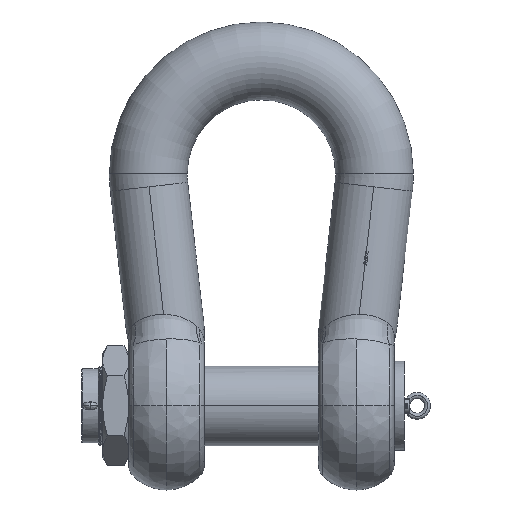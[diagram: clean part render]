
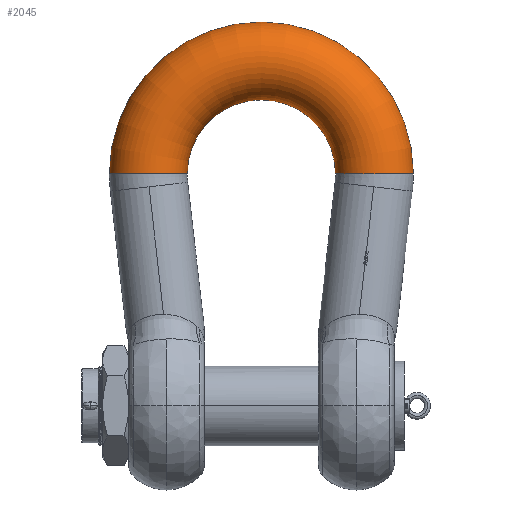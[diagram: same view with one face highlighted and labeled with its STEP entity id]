
A CAD part, front view. The second image highlights one B-rep face of the part: STEP entity #2045.
In plain terms, the highlighted toroidal (fillet/blend) face has major radius 305 mm and minor radius 104.995 mm.
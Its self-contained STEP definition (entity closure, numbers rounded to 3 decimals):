
#2045=ADVANCED_FACE('',(#4930),#4931,.T.);
#4930=FACE_OUTER_BOUND('',#10768,.T.);
#4931=TOROIDAL_SURFACE('',#10769,305.0,104.995);
#10768=EDGE_LOOP('',(#35251,#35252,#35253,#35254));
#10769=AXIS2_PLACEMENT_3D('',#35255,#35256,#35257);
#35251=ORIENTED_EDGE('',*,*,#47067,.T.);
#35252=ORIENTED_EDGE('',*,*,#47068,.F.);
#35253=ORIENTED_EDGE('',*,*,#47069,.T.);
#35254=ORIENTED_EDGE('',*,*,#46942,.F.);
#35255=CARTESIAN_POINT('',(0.0,0.0,625.5));
#35256=DIRECTION('',(0.0,-1.0,0.0));
#35257=DIRECTION('',(1.0,0.0,0.0));
#46942=EDGE_CURVE('',#54196,#54195,#54198,.F.);
#47067=EDGE_CURVE('',#54196,#54360,#54361,.F.);
#47068=EDGE_CURVE('',#54362,#54360,#54363,.T.);
#47069=EDGE_CURVE('',#54362,#54195,#54364,.T.);
#54195=VERTEX_POINT('',#68575);
#54196=VERTEX_POINT('',#68576);
#54198=CIRCLE('',#68578,104.995);
#54360=VERTEX_POINT('',#68916);
#54361=CIRCLE('',#68917,200.005);
#54362=VERTEX_POINT('',#68918);
#54363=B_SPLINE_CURVE_WITH_KNOTS('',5,(#68919,#68920,#68921,#68922,#68923,#68924,#68925,#68926,#68927,#68928,#68929,#68930,#68931,#68932,#68933,#68934,#68935,#68936,#68937,#68938,#68939,#68940,#68941,#68942),.UNSPECIFIED.,.F.,.F.,(6,3,3,3,3,3,3,6),(0.,67.441,134.882,202.324,269.765,337.206,404.647,466.477),.UNSPECIFIED.);
#54364=CIRCLE('',#68943,409.995);
#68575=CARTESIAN_POINT('',(-409.995,0.0,625.5));
#68576=CARTESIAN_POINT('',(-200.005,0.,625.5));
#68578=AXIS2_PLACEMENT_3D('',#105519,#105520,#105521);
#68916=CARTESIAN_POINT('',(200.005,0.,625.5));
#68917=AXIS2_PLACEMENT_3D('',#105526,#105527,#105528);
#68918=CARTESIAN_POINT('',(409.995,0.0,625.5));
#68919=CARTESIAN_POINT('',(409.995,0.,625.5));
#68920=CARTESIAN_POINT('',(409.995,-9.538,625.5));
#68921=CARTESIAN_POINT('',(408.912,-19.075,625.5));
#68922=CARTESIAN_POINT('',(406.746,-28.449,625.5));
#68923=CARTESIAN_POINT('',(400.323,-46.541,625.5));
#68924=CARTESIAN_POINT('',(390.008,-62.732,625.5));
#68925=CARTESIAN_POINT('',(383.948,-70.205,625.5));
#68926=CARTESIAN_POINT('',(370.239,-83.644,625.5));
#68927=CARTESIAN_POINT('',(353.866,-93.668,625.5));
#68928=CARTESIAN_POINT('',(345.142,-97.725,625.5));
#68929=CARTESIAN_POINT('',(326.927,-103.787,625.5));
#68930=CARTESIAN_POINT('',(307.816,-105.611,625.5));
#68931=CARTESIAN_POINT('',(298.196,-105.429,625.5));
#68932=CARTESIAN_POINT('',(279.168,-102.885,625.5));
#68933=CARTESIAN_POINT('',(261.194,-96.139,625.5));
#68934=CARTESIAN_POINT('',(252.63,-91.755,625.5));
#68935=CARTESIAN_POINT('',(236.647,-81.12,625.5));
#68936=CARTESIAN_POINT('',(223.456,-67.172,625.5));
#68937=CARTESIAN_POINT('',(217.683,-59.475,625.5));
#68938=CARTESIAN_POINT('',(208.39,-43.595,625.5));
#68939=CARTESIAN_POINT('',(202.736,-26.106,625.5));
#68940=CARTESIAN_POINT('',(200.915,-17.488,625.5));
#68941=CARTESIAN_POINT('',(200.005,-8.744,625.5));
#68942=CARTESIAN_POINT('',(200.005,0.,625.5));
#68943=AXIS2_PLACEMENT_3D('',#105529,#105530,#105531);
#105519=CARTESIAN_POINT('',(-305.0,0.0,625.5));
#105520=DIRECTION('',(0.,0.0,1.0));
#105521=DIRECTION('',(-1.0,0.0,0.));
#105526=CARTESIAN_POINT('',(0.0,0.,625.5));
#105527=DIRECTION('',(0.0,-1.0,0.0));
#105528=DIRECTION('',(-1.0,0.0,0.0));
#105529=CARTESIAN_POINT('',(0.0,0.,625.5));
#105530=DIRECTION('',(0.0,-1.0,0.0));
#105531=DIRECTION('',(-1.0,0.0,0.0));
